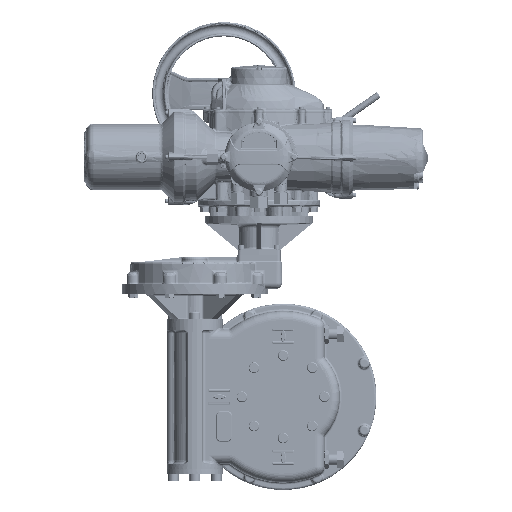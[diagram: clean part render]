
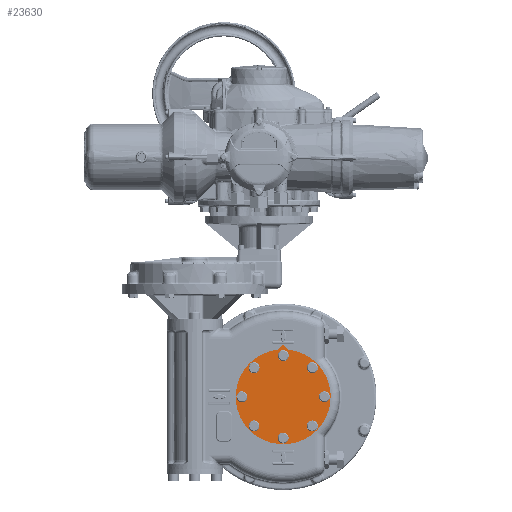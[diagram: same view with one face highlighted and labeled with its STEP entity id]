
A CAD part, front view. The second image highlights one B-rep face of the part: STEP entity #23630.
In plain terms, the highlighted planar face has unit normal (0, -1, 0).
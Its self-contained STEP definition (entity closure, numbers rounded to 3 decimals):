
#23630 = ADVANCED_FACE( '', ( #49753, #49754, #49755, #49756, #49757, #49758, #49759, #49760, #49761 ), #49762, .F. );
#49753 = FACE_BOUND( '', #388201, .T. );
#49754 = FACE_BOUND( '', #388202, .T. );
#49755 = FACE_BOUND( '', #388203, .T. );
#49756 = FACE_BOUND( '', #388204, .T. );
#49757 = FACE_BOUND( '', #388205, .T. );
#49758 = FACE_BOUND( '', #388206, .T. );
#49759 = FACE_BOUND( '', #388207, .T. );
#49760 = FACE_BOUND( '', #388208, .T. );
#49761 = FACE_OUTER_BOUND( '', #388209, .T. );
#49762 = PLANE( '', #388210 );
#388201 = EDGE_LOOP( '', ( #527793 ) );
#388202 = EDGE_LOOP( '', ( #527794 ) );
#388203 = EDGE_LOOP( '', ( #527795 ) );
#388204 = EDGE_LOOP( '', ( #527796 ) );
#388205 = EDGE_LOOP( '', ( #527797 ) );
#388206 = EDGE_LOOP( '', ( #527798 ) );
#388207 = EDGE_LOOP( '', ( #527799 ) );
#388208 = EDGE_LOOP( '', ( #527800 ) );
#388209 = EDGE_LOOP( '', ( #527801, #527802, #527803 ) );
#388210 = AXIS2_PLACEMENT_3D( '', #527804, #527805, #527806 );
#527793 = ORIENTED_EDGE( '', *, *, #554648, .F. );
#527794 = ORIENTED_EDGE( '', *, *, #569108, .F. );
#527795 = ORIENTED_EDGE( '', *, *, #556247, .F. );
#527796 = ORIENTED_EDGE( '', *, *, #562017, .F. );
#527797 = ORIENTED_EDGE( '', *, *, #551124, .F. );
#527798 = ORIENTED_EDGE( '', *, *, #564518, .F. );
#527799 = ORIENTED_EDGE( '', *, *, #568060, .F. );
#527800 = ORIENTED_EDGE( '', *, *, #563671, .F. );
#527801 = ORIENTED_EDGE( '', *, *, #554419, .F. );
#527802 = ORIENTED_EDGE( '', *, *, #554650, .F. );
#527803 = ORIENTED_EDGE( '', *, *, #548977, .F. );
#527804 = CARTESIAN_POINT( '', ( 67.42, -70.25, -668.94 ) );
#527805 = DIRECTION( '', ( 0., 1., 0. ) );
#527806 = DIRECTION( '', ( 0., 0., -1. ) );
#548977 = EDGE_CURVE( '', #583790, #583792, #583793, .T. );
#551124 = EDGE_CURVE( '', #587286, #587286, #587287, .T. );
#554419 = EDGE_CURVE( '', #592295, #583790, #592297, .T. );
#554648 = EDGE_CURVE( '', #592630, #592630, #592631, .T. );
#554650 = EDGE_CURVE( '', #583792, #592295, #592633, .T. );
#556247 = EDGE_CURVE( '', #594973, #594973, #594974, .T. );
#562017 = EDGE_CURVE( '', #602876, #602876, #602877, .T. );
#563671 = EDGE_CURVE( '', #604978, #604978, #604979, .T. );
#564518 = EDGE_CURVE( '', #606001, #606001, #606002, .T. );
#568060 = EDGE_CURVE( '', #610092, #610092, #610093, .T. );
#569108 = EDGE_CURVE( '', #611217, #611217, #611218, .T. );
#583790 = VERTEX_POINT( '', #678279 );
#583792 = VERTEX_POINT( '', #678282 );
#583793 = LINE( '', #678283, #678284 );
#587286 = VERTEX_POINT( '', #696401 );
#587287 = CIRCLE( '', #696402, 15.35 );
#592295 = VERTEX_POINT( '', #721401 );
#592297 = CIRCLE( '', #721404, 132.5 );
#592630 = VERTEX_POINT( '', #723398 );
#592631 = CIRCLE( '', #723399, 15.35 );
#592633 = LINE( '', #723401, #723402 );
#594973 = VERTEX_POINT( '', #736642 );
#594974 = CIRCLE( '', #736643, 15.35 );
#602876 = VERTEX_POINT( '', #781232 );
#602877 = CIRCLE( '', #781233, 15.35 );
#604978 = VERTEX_POINT( '', #792992 );
#604979 = CIRCLE( '', #792993, 15.35 );
#606001 = VERTEX_POINT( '', #799116 );
#606002 = CIRCLE( '', #799117, 15.35 );
#610092 = VERTEX_POINT( '', #822652 );
#610093 = CIRCLE( '', #822653, 15.35 );
#611217 = VERTEX_POINT( '', #827599 );
#611218 = CIRCLE( '', #827600, 15.35 );
#678279 = CARTESIAN_POINT( '', ( 54.265, -70.25, -537.095 ) );
#678282 = CARTESIAN_POINT( '', ( 67.42, -70.25, -523.94 ) );
#678283 = CARTESIAN_POINT( '', ( 54.265, -70.25, -537.095 ) );
#678284 = VECTOR( '', #845054, 1000. );
#696401 = CARTESIAN_POINT( '', ( 148.737, -70.25, -602.973 ) );
#696402 = AXIS2_PLACEMENT_3D( '', #847452, #847453, #847454 );
#721401 = CARTESIAN_POINT( '', ( 80.575, -70.25, -537.095 ) );
#721404 = AXIS2_PLACEMENT_3D( '', #851104, #851105, #851106 );
#723398 = CARTESIAN_POINT( '', ( 1.453, -70.25, -587.623 ) );
#723399 = AXIS2_PLACEMENT_3D( '', #851338, #851339, #851340 );
#723401 = CARTESIAN_POINT( '', ( 67.42, -70.25, -523.94 ) );
#723402 = VECTOR( '', #851341, 1000. );
#736642 = CARTESIAN_POINT( '', ( 171.566, -70.25, -679.794 ) );
#736643 = AXIS2_PLACEMENT_3D( '', #852988, #852989, #852990 );
#781232 = CARTESIAN_POINT( '', ( 78.274, -70.25, -564.794 ) );
#781233 = AXIS2_PLACEMENT_3D( '', #858786, #858787, #858788 );
#792992 = CARTESIAN_POINT( '', ( -36.726, -70.25, -658.086 ) );
#792993 = AXIS2_PLACEMENT_3D( '', #860342, #860343, #860344 );
#799116 = CARTESIAN_POINT( '', ( 133.387, -70.25, -750.257 ) );
#799117 = AXIS2_PLACEMENT_3D( '', #861089, #861090, #861091 );
#822652 = CARTESIAN_POINT( '', ( -13.897, -70.25, -734.907 ) );
#822653 = AXIS2_PLACEMENT_3D( '', #863976, #863977, #863978 );
#827599 = CARTESIAN_POINT( '', ( 56.566, -70.25, -773.086 ) );
#827600 = AXIS2_PLACEMENT_3D( '', #864684, #864685, #864686 );
#845054 = DIRECTION( '', ( 0.707, 0., 0.707 ) );
#847452 = CARTESIAN_POINT( '', ( 148.737, -70.25, -587.623 ) );
#847453 = DIRECTION( '', ( 0., -1., 0. ) );
#847454 = DIRECTION( '', ( 0., 0., -1. ) );
#851104 = CARTESIAN_POINT( '', ( 67.42, -70.25, -668.94 ) );
#851105 = DIRECTION( '', ( 0., 1., 0. ) );
#851106 = DIRECTION( '', ( 0., 0., 1. ) );
#851338 = CARTESIAN_POINT( '', ( -13.897, -70.25, -587.623 ) );
#851339 = DIRECTION( '', ( 0., -1., 0. ) );
#851340 = DIRECTION( '', ( 1., 0., 0. ) );
#851341 = DIRECTION( '', ( 0.707, 0., -0.707 ) );
#852988 = CARTESIAN_POINT( '', ( 182.42, -70.25, -668.94 ) );
#852989 = DIRECTION( '', ( 0., -1., 0. ) );
#852990 = DIRECTION( '', ( -0.707, 0., -0.707 ) );
#858786 = CARTESIAN_POINT( '', ( 67.42, -70.25, -553.94 ) );
#858787 = DIRECTION( '', ( 0., -1., 0. ) );
#858788 = DIRECTION( '', ( 0.707, 0., -0.707 ) );
#860342 = CARTESIAN_POINT( '', ( -47.58, -70.25, -668.94 ) );
#860343 = DIRECTION( '', ( 0., -1., 0. ) );
#860344 = DIRECTION( '', ( 0.707, 0., 0.707 ) );
#861089 = CARTESIAN_POINT( '', ( 148.737, -70.25, -750.257 ) );
#861090 = DIRECTION( '', ( 0., -1., 0. ) );
#861091 = DIRECTION( '', ( -1., 0., 0. ) );
#863976 = CARTESIAN_POINT( '', ( -13.897, -70.25, -750.257 ) );
#863977 = DIRECTION( '', ( 0., -1., 0. ) );
#863978 = DIRECTION( '', ( 0., 0., 1. ) );
#864684 = CARTESIAN_POINT( '', ( 67.42, -70.25, -783.94 ) );
#864685 = DIRECTION( '', ( 0., -1., 0. ) );
#864686 = DIRECTION( '', ( -0.707, 0., 0.707 ) );
